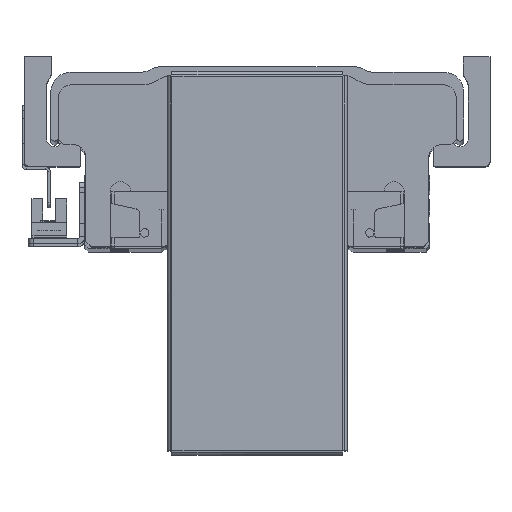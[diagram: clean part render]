
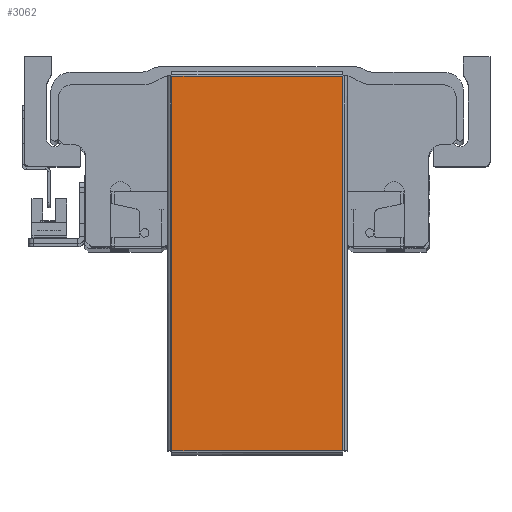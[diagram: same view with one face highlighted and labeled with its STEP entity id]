
A CAD part, top view. The second image highlights one B-rep face of the part: STEP entity #3062.
In plain terms, the highlighted planar face has unit normal (0, 0, 1) as drawn and (0, -1, 0) by its records, which use the part's own axes.
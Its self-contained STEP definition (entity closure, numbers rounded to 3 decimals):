
#1603 = DIRECTION ( 'NONE',  ( 1., 0., 0. ) ) ;
#1619 = CARTESIAN_POINT ( 'NONE',  ( -73.293, -1., -33.363 ) ) ;
#1787 = CARTESIAN_POINT ( 'NONE',  ( -73.263, -1., 33.393 ) ) ;
#1789 = DIRECTION ( 'NONE',  ( 0., 0., -1. ) ) ;
#1815 = DIRECTION ( 'NONE',  ( 0., 0., 1. ) ) ;
#1826 = CARTESIAN_POINT ( 'NONE',  ( 73.263, -1., -33.393 ) ) ;
#1889 = DIRECTION ( 'NONE',  ( -1., 0., 0. ) ) ;
#1897 = CARTESIAN_POINT ( 'NONE',  ( 73.293, -1., 33.363 ) ) ;
#3062 = ADVANCED_FACE ( 'NONE', ( #6982 ), #41921, .F. ) ;
#5086 = EDGE_CURVE ( 'NONE', #19565, #19500, #48526, .T. ) ;
#5196 = EDGE_CURVE ( 'NONE', #19606, #19565, #36159, .T. ) ;
#5209 = EDGE_CURVE ( 'NONE', #19500, #19593, #36108, .T. ) ;
#5219 = EDGE_CURVE ( 'NONE', #19593, #19606, #36117, .T. ) ;
#6982 = FACE_OUTER_BOUND ( 'NONE', #34752, .T. ) ;
#19500 = VERTEX_POINT ( 'NONE', #46306 ) ;
#19565 = VERTEX_POINT ( 'NONE', #46375 ) ;
#19593 = VERTEX_POINT ( 'NONE', #46457 ) ;
#19606 = VERTEX_POINT ( 'NONE', #46473 ) ;
#32196 = ORIENTED_EDGE ( 'NONE', *, *, #5209, .T. ) ;
#32235 = ORIENTED_EDGE ( 'NONE', *, *, #5196, .T. ) ;
#32246 = ORIENTED_EDGE ( 'NONE', *, *, #5219, .T. ) ;
#32251 = ORIENTED_EDGE ( 'NONE', *, *, #5086, .T. ) ;
#34752 = EDGE_LOOP ( 'NONE', ( #32246, #32235, #32251, #32196 ) ) ;
#36108 = LINE ( 'NONE', #1826, #36140 ) ;
#36117 = LINE ( 'NONE', #1897, #36119 ) ;
#36119 = VECTOR ( 'NONE', #1889, 1000. ) ;
#36140 = VECTOR ( 'NONE', #1815, 1000. ) ;
#36151 = VECTOR ( 'NONE', #1789, 1000. ) ;
#36159 = LINE ( 'NONE', #1787, #36151 ) ;
#41903 = CARTESIAN_POINT ( 'NONE',  ( 0., -1., 0. ) ) ;
#41907 = DIRECTION ( 'NONE',  ( 0., 0., 1. ) ) ;
#41921 = PLANE ( 'NONE',  #44480 ) ;
#41929 = DIRECTION ( 'NONE',  ( 0., 1., 0. ) ) ;
#44480 = AXIS2_PLACEMENT_3D ( 'NONE', #41903, #41929, #41907 ) ;
#46306 = CARTESIAN_POINT ( 'NONE',  ( 73.263, -1., -33.363 ) ) ;
#46375 = CARTESIAN_POINT ( 'NONE',  ( -73.263, -1., -33.363 ) ) ;
#46457 = CARTESIAN_POINT ( 'NONE',  ( 73.263, -1., 33.363 ) ) ;
#46473 = CARTESIAN_POINT ( 'NONE',  ( -73.263, -1., 33.363 ) ) ;
#48526 = LINE ( 'NONE', #1619, #48567 ) ;
#48567 = VECTOR ( 'NONE', #1603, 1000. ) ;
